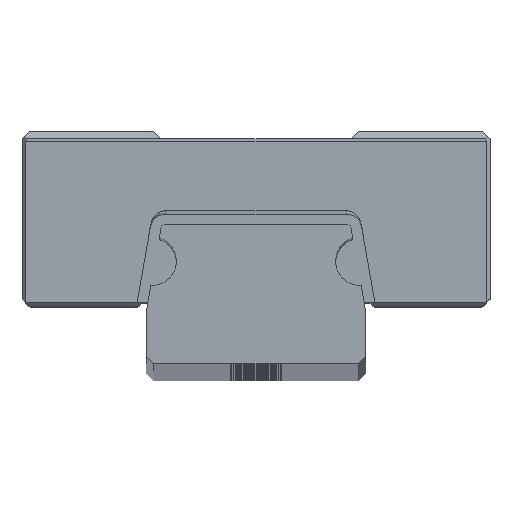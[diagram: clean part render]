
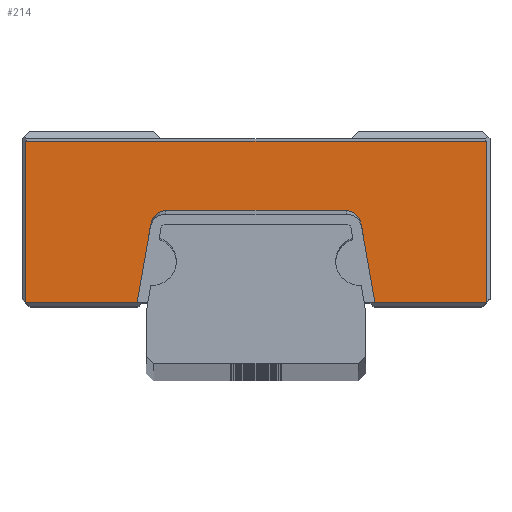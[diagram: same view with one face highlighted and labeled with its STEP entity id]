
A CAD part, top view. The second image highlights one B-rep face of the part: STEP entity #214.
In plain terms, the highlighted planar face has unit normal (0, 0, 1).
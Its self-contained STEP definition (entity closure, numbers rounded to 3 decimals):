
#214=ADVANCED_FACE('',(#542),#543,.F.);
#542=FACE_OUTER_BOUND('',#937,.T.);
#543=PLANE('',#938);
#937=EDGE_LOOP('',(#1662,#1663,#1664,#1665,#1666,#1667,#1668,#1669,#1670,#1671));
#938=AXIS2_PLACEMENT_3D('',#1672,#1673,#1674);
#1662=ORIENTED_EDGE('',*,*,#2329,.F.);
#1663=ORIENTED_EDGE('',*,*,#2330,.F.);
#1664=ORIENTED_EDGE('',*,*,#2331,.T.);
#1665=ORIENTED_EDGE('',*,*,#2261,.T.);
#1666=ORIENTED_EDGE('',*,*,#2275,.T.);
#1667=ORIENTED_EDGE('',*,*,#2332,.T.);
#1668=ORIENTED_EDGE('',*,*,#2276,.T.);
#1669=ORIENTED_EDGE('',*,*,#2263,.F.);
#1670=ORIENTED_EDGE('',*,*,#2282,.T.);
#1671=ORIENTED_EDGE('',*,*,#2333,.T.);
#1672=CARTESIAN_POINT('',(-8.185,-23.,280.5));
#1673=DIRECTION('',(0.,0.,-1.0));
#1674=DIRECTION('',(1.0,0.,0.));
#2261=EDGE_CURVE('',#2692,#2690,#2693,.F.);
#2263=EDGE_CURVE('',#2695,#2696,#2697,.F.);
#2275=EDGE_CURVE('',#2690,#2715,#2717,.T.);
#2276=EDGE_CURVE('',#2718,#2696,#2719,.T.);
#2282=EDGE_CURVE('',#2695,#2728,#2730,.T.);
#2329=EDGE_CURVE('',#2809,#2810,#2811,.T.);
#2330=EDGE_CURVE('',#2812,#2809,#2813,.T.);
#2331=EDGE_CURVE('',#2812,#2692,#2814,.T.);
#2332=EDGE_CURVE('',#2715,#2718,#2815,.T.);
#2333=EDGE_CURVE('',#2728,#2810,#2816,.T.);
#2690=VERTEX_POINT('',#3284);
#2692=VERTEX_POINT('',#3287);
#2693=LINE('',#3288,#3289);
#2695=VERTEX_POINT('',#3292);
#2696=VERTEX_POINT('',#3293);
#2697=LINE('',#3294,#3295);
#2715=VERTEX_POINT('',#3318);
#2717=ELLIPSE('',#3321,1.036,1.0);
#2718=VERTEX_POINT('',#3322);
#2719=ELLIPSE('',#3323,1.036,1.0);
#2728=VERTEX_POINT('',#3335);
#2730=LINE('',#3338,#3339);
#2809=VERTEX_POINT('',#3458);
#2810=VERTEX_POINT('',#3459);
#2811=LINE('',#3460,#3461);
#2812=VERTEX_POINT('',#3462);
#2813=LINE('',#3463,#3464);
#2814=LINE('',#3465,#3466);
#2815=LINE('',#3467,#3468);
#2816=LINE('',#3469,#3470);
#3284=CARTESIAN_POINT('',(-7.179,9.706,280.5));
#3287=CARTESIAN_POINT('',(-8.132,4.3,280.5));
#3288=CARTESIAN_POINT('',(-8.185,4.0,280.5));
#3289=VECTOR('',#4026,1.0);
#3292=CARTESIAN_POINT('',(8.132,4.3,280.5));
#3293=CARTESIAN_POINT('',(7.179,9.706,280.5));
#3294=CARTESIAN_POINT('',(12.309,-19.386,280.5));
#3295=VECTOR('',#4028,1.0);
#3318=CARTESIAN_POINT('',(-6.182,10.568,280.5));
#3321=AXIS2_PLACEMENT_3D('',#4050,#4051,#4052);
#3322=CARTESIAN_POINT('',(6.182,10.568,280.5));
#3323=AXIS2_PLACEMENT_3D('',#4053,#4054,#4055);
#3335=CARTESIAN_POINT('',(15.75,4.3,280.5));
#3338=CARTESIAN_POINT('',(15.75,4.3,280.5));
#3339=VECTOR('',#4063,1.0);
#3458=CARTESIAN_POINT('',(-15.75,15.3,280.5));
#3459=CARTESIAN_POINT('',(15.75,15.3,280.5));
#3460=CARTESIAN_POINT('',(-44.,15.3,280.5));
#3461=VECTOR('',#4122,1.0);
#3462=CARTESIAN_POINT('',(-15.75,4.3,280.5));
#3463=CARTESIAN_POINT('',(-15.75,-23.,280.5));
#3464=VECTOR('',#4123,1.0);
#3465=CARTESIAN_POINT('',(-8.185,4.3,280.5));
#3466=VECTOR('',#4124,1.0);
#3467=CARTESIAN_POINT('',(-44.,10.568,280.5));
#3468=VECTOR('',#4125,1.0);
#3469=CARTESIAN_POINT('',(15.75,-23.,280.5));
#3470=VECTOR('',#4126,1.0);
#4026=DIRECTION('',(-0.174,-0.985,0.));
#4028=DIRECTION('',(0.174,-0.985,0.));
#4050=CARTESIAN_POINT('',(-6.194,9.533,280.5));
#4051=DIRECTION('',(0.,0.,-1.0));
#4052=DIRECTION('',(-0.174,-0.985,0.));
#4053=CARTESIAN_POINT('',(6.194,9.533,280.5));
#4054=DIRECTION('',(0.,0.,-1.0));
#4055=DIRECTION('',(-0.174,0.985,0.));
#4063=DIRECTION('',(1.0,0.0,0.));
#4122=DIRECTION('',(1.0,0.0,0.));
#4123=DIRECTION('',(0.,1.0,0.));
#4124=DIRECTION('',(1.0,0.0,0.));
#4125=DIRECTION('',(1.0,0.0,0.));
#4126=DIRECTION('',(0.,1.0,0.));
